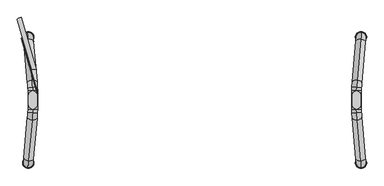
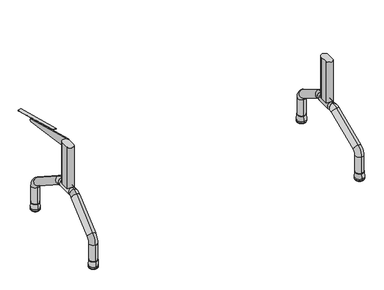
"""IFC4 building model written with IfcOpenShell, lengths in millimetres: furniture geometry, Mesa para refeitório : Mesa para refeitório 150x77cm cód 70474.2."""

from ifc_helpers import new_model, si_unit, point, frame, frame_2d, origin, place, context, project, spatial, polyline, circle_curve, ellipse_curve, trimmed, segment, composite_curve, outline, extrude, source, transform, mapped, element, save
from ifc_brep_helpers import plane_surface, cylinder_surface, revolved_surface, extruded_surface, advanced_brep


def furniture_75466551(model_context):
    return source(origin(), model_context, "Body", "SolidModel", [
        advanced_brep(
        [(-669.4401581, 37.5, 255.0), (-669.4401581, -37.5, 255.0), (-669.4401581, -37.5, 295.0), (-669.4401581, 37.5, 295.0), (-670.0583573, -51.7441422, 295.0), (-670.0583573, -51.7441422, 255.0), (-670.0583573, 51.7441422, 295.0), (-670.0583573, 51.7441422, 255.0)],
        [
            (0, 1),
            (1, 2, ellipse_curve(frame((-669.4401581, -37.5, 275.0), z_axis=(0.0, 1.0, 0.0), x_axis=(0.0, 0.0, -1.0)), 20.0, 19.923894)),
            (2, 3),
            (3, 0, ellipse_curve(frame((-669.4401581, 37.5, 275.0), z_axis=(0.0, -1.0, 0.0), x_axis=(0.0, 0.0, -1.0)), 20.0, 19.923894)),
            (2, 1, ellipse_curve(frame((-669.4401581, -37.5, 275.0), z_axis=(0.0, 1.0, 0.0), x_axis=(0.0, 0.0, -1.0)), 20.0, 19.923894)),
            (0, 3, ellipse_curve(frame((-669.4401581, 37.5, 275.0), z_axis=(0.0, -1.0, 0.0), x_axis=(0.0, 0.0, -1.0)), 20.0, 19.923894)),
            (4, 5, ellipse_curve(frame((-670.0583573, -51.7441422, 275.0), z_axis=(-0.08663729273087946, -0.9962399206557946, 0.0), x_axis=(0.0, 0.0, -1.0)), 20.0, 19.923894)),
            (5, 4, ellipse_curve(frame((-670.0583573, -51.7441422, 275.0), z_axis=(-0.08663729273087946, -0.9962399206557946, 0.0), x_axis=(0.0, 0.0, -1.0)), 20.0, 19.923894)),
            (4, 2, circle_curve(frame((-833.8513695, -37.5, 295.0), z_axis=(0.0, 0.0, 1.0), x_axis=(1.0, 0.0, 0.0)), 164.4112114)),
            (1, 5, circle_curve(frame((-833.8513695, -37.5, 255.0), z_axis=(0.0, 0.0, -1.0), x_axis=(1.0, 0.0, 0.0)), 164.4112114)),
            (6, 7, ellipse_curve(frame((-670.0583573, 51.7441422, 275.0), z_axis=(-0.08663729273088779, 0.9962399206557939, 0.0), x_axis=(0.0, 0.0, -1.0)), 20.0, 19.923894)),
            (7, 6, ellipse_curve(frame((-670.0583573, 51.7441422, 275.0), z_axis=(-0.08663729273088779, 0.9962399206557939, 0.0), x_axis=(0.0, 0.0, -1.0)), 20.0, 19.923894)),
            (3, 6, circle_curve(frame((-833.8513695, 37.5, 295.0), z_axis=(0.0, 0.0, 1.0), x_axis=(0.996239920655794, 0.08663729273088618, 0.0)), 164.4112114)),
            (7, 0, circle_curve(frame((-833.8513695, 37.5, 255.0), z_axis=(0.0, 0.0, -1.0), x_axis=(0.996239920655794, 0.08663729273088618, 0.0)), 164.4112114)),
        ],
        [
            extruded_surface(trimmed(ellipse_curve(frame((-669.4401581, 37.5, 275.0), z_axis=(0.0, -1.0, 0.0), x_axis=(0.0, 0.0, -1.0)), 20.0, 19.923894), [point((-669.4401581, 37.5, 295.0))], [point((-669.4401581, 37.5, 255.0))], True, "CARTESIAN"), (0.0, -75.0, 0.0), 75.0),
            extruded_surface(trimmed(ellipse_curve(frame((-669.4401581, 37.5, 275.0), z_axis=(0.0, -1.0, 0.0), x_axis=(0.0, 0.0, -1.0)), 20.0, 19.923894), [point((-669.4401581, 37.5, 255.0))], [point((-669.4401581, 37.5, 295.0))], True, "CARTESIAN"), (0.0, -75.0, 0.0), 75.0),
            plane_surface(frame((-670.0583573, -51.7441422, 0.0), z_axis=(-0.08663729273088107, -0.9962399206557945, 0.0), x_axis=(0.0, 0.0, 1.0))),
            revolved_surface(trimmed(ellipse_curve(frame((-669.4401581, -37.5, 275.0), z_axis=(0.0, -1.0, 0.0), x_axis=(0.0, 0.0, -1.0)), 20.0, 19.923894), [point((-669.4401581, -37.5, 295.0))], [point((-669.4401581, -37.5, 255.0))], True, "CARTESIAN"), (-833.8513695, -37.5, 0.0), (0.0, 0.0, 1.0)),
            revolved_surface(trimmed(ellipse_curve(frame((-669.4401581, -37.5, 275.0), z_axis=(0.0, -1.0, 0.0), x_axis=(0.0, 0.0, -1.0)), 20.0, 19.923894), [point((-669.4401581, -37.5, 255.0))], [point((-669.4401581, -37.5, 295.0))], True, "CARTESIAN"), (-833.8513695, -37.5, 0.0), (0.0, 0.0, 1.0)),
            plane_surface(frame((-670.0583573, 51.7441422, 0.0), z_axis=(-0.08663729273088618, 0.996239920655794, 0.0), x_axis=(0.0, 0.0, 1.0))),
            revolved_surface(trimmed(ellipse_curve(frame((-670.0583573, 51.7441422, 275.0), z_axis=(0.08663729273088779, -0.9962399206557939, 0.0), x_axis=(0.0, 0.0, -1.0)), 20.0, 19.923894), [point((-670.0583573, 51.7441422, 295.0))], [point((-670.0583573, 51.7441422, 255.0))], True, "CARTESIAN"), (-833.8513695, 37.5, 0.0), (0.0, 0.0, 1.0)),
            revolved_surface(trimmed(ellipse_curve(frame((-670.0583573, 51.7441422, 275.0), z_axis=(0.08663729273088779, -0.9962399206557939, 0.0), x_axis=(0.0, 0.0, -1.0)), 20.0, 19.923894), [point((-670.0583573, 51.7441422, 255.0))], [point((-670.0583573, 51.7441422, 295.0))], True, "CARTESIAN"), (-833.8513695, 37.5, 0.0), (0.0, 0.0, 1.0)),
        ],
        [
            (0, [[1, 2, 3, 4]]),
            (1, [[-3, 5, -1, 6]]),
            (2, [[7, 8]]),
            (3, [[-7, 9, -2, 10]]),
            (4, [[-8, -10, -5, -9]]),
            (5, [[11, 12]]),
            (6, [[-4, 13, -12, 14]]),
            (7, [[-6, -14, -11, -13]]),
        ],
    ),
        advanced_brep(
        [(-689.9590188, 279.1314153, 43.1183008), (-686.4727891, 239.2836274, 43.1183008), (-689.9590188, 279.1314153, 130.5759348), (-686.4727891, 239.2836274, 130.5759348), (-687.4872272, 250.8787073, 181.5558347), (-672.822711, 83.2625212, 285.9798998), (-670.9843424, 62.2498719, 251.9932999), (-685.6488585, 229.866058, 147.5692348), (-670.0651581, 51.7435473, 295.0), (-670.0651581, 51.7435473, 255.0)],
        [
            (0, 1, circle_curve(frame((-688.215904, 259.2075213, 43.1183008), z_axis=(0.0, 0.0, -1.0), x_axis=(0.08715574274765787, -0.9961946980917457, 0.0)), 20.0)),
            (1, 0, circle_curve(frame((-688.215904, 259.2075213, 43.1183008), z_axis=(0.0, 0.0, -1.0), x_axis=(0.08715574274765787, -0.9961946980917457, 0.0)), 20.0)),
            (0, 2),
            (2, 3, circle_curve(frame((-688.215904, 259.2075213, 130.5759348), z_axis=(0.0, 0.0, -1.0), x_axis=(0.08715574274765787, -0.9961946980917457, 0.0)), 20.0)),
            (3, 1),
            (3, 2, circle_curve(frame((-688.215904, 259.2075213, 130.5759348), z_axis=(0.0, 0.0, -1.0), x_axis=(0.08715574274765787, -0.9961946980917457, 0.0)), 20.0)),
            (4, 5),
            (5, 6, circle_curve(frame((-671.9035267, 72.7561965, 268.9865999), z_axis=(-0.07405318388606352, 0.8464317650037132, -0.5273228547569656), x_axis=(0.04595921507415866, -0.5253162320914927, -0.8496649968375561)), 20.0)),
            (6, 7),
            (7, 4, circle_curve(frame((-686.5680429, 240.3723827, 164.5625347), z_axis=(0.07405318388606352, -0.8464317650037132, 0.5273228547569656), x_axis=(0.04595921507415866, -0.5253162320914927, -0.8496649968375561)), 20.0)),
            (6, 5, circle_curve(frame((-671.9035267, 72.7561965, 268.9865999), z_axis=(-0.07405318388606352, 0.8464317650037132, -0.5273228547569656), x_axis=(0.04595921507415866, -0.5253162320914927, -0.8496649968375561)), 20.0)),
            (4, 7, circle_curve(frame((-686.5680429, 240.3723827, 164.5625347), z_axis=(0.07405318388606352, -0.8464317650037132, 0.5273228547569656), x_axis=(0.04595921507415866, -0.5253162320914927, -0.8496649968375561)), 20.0)),
            (7, 3, circle_curve(frame((-684.7296742, 219.3597334, 130.5759348), z_axis=(-0.9961946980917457, -0.08715574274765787, 0.0), x_axis=(-0.08715574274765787, 0.9961946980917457, 0.0)), 20.0)),
            (2, 4, circle_curve(frame((-684.7296742, 219.3597334, 130.5759348), z_axis=(0.9961946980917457, 0.08715574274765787, 0.0), x_axis=(-0.08715574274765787, 0.9961946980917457, 0.0)), 60.0)),
            (8, 9, circle_curve(frame((-670.0651581, 51.7435473, 275.0), z_axis=(0.08715574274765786, -0.9961946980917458, 0.0), x_axis=(0.0, 0.0, -1.0)), 20.0)),
            (9, 8, circle_curve(frame((-670.0651581, 51.7435473, 275.0), z_axis=(0.08715574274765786, -0.9961946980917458, 0.0), x_axis=(0.0, 0.0, -1.0)), 20.0)),
            (9, 6, circle_curve(frame((-670.0651581, 51.7435473, 235.0), z_axis=(-0.9961946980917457, -0.08715574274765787, 0.0), x_axis=(-0.045959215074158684, 0.5253162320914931, 0.8496649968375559)), 20.0)),
            (5, 8, circle_curve(frame((-670.0651581, 51.7435473, 235.0), z_axis=(0.9961946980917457, 0.08715574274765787, 0.0), x_axis=(-0.045959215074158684, 0.5253162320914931, 0.8496649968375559)), 60.0)),
        ],
        [
            plane_surface(frame((-0.8415623, 319.3449838, 43.1183008), z_axis=(0.0, 0.0, -1.0000000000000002), x_axis=(-0.9961946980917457, -0.08715574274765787, 0.0))),
            cylinder_surface(frame((-688.215904, 259.2075213, 43.1183008), z_axis=(0.0, 0.0, -1.0000000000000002), x_axis=(0.08715574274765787, -0.9961946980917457, 0.0)), 20.0),
            cylinder_surface(frame((-686.5680429, 240.3723827, 164.5625347), z_axis=(-0.07405318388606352, 0.8464317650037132, -0.5273228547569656), x_axis=(0.04595921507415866, -0.5253162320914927, -0.8496649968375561)), 20.0),
            revolved_surface(trimmed(ellipse_curve(frame((-688.215904, 259.2075213, 130.5759348), z_axis=(0.0, 0.0, 1.0000000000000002), x_axis=(0.08715574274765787, -0.9961946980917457, 0.0)), 20.0, 20.0), [point((-686.4727891, 239.2836274, 130.5759348))], [point((-689.9590188, 279.1314153, 130.5759348))], True, "CARTESIAN"), (2.6446674, 279.4971959, 130.5759348), (-0.9961946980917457, -0.08715574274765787, 0.0)),
            revolved_surface(trimmed(ellipse_curve(frame((-688.215904, 259.2075213, 130.5759348), z_axis=(0.0, 0.0, 1.0000000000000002), x_axis=(0.08715574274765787, -0.9961946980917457, 0.0)), 20.0, 20.0), [point((-689.9590188, 279.1314153, 130.5759348))], [point((-686.4727891, 239.2836274, 130.5759348))], True, "CARTESIAN"), (2.6446674, 279.4971959, 130.5759348), (-0.9961946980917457, -0.08715574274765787, 0.0)),
            plane_surface(frame((17.3091835, 111.8810098, 275.0), z_axis=(0.08715574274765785, -0.9961946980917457, 0.0), x_axis=(-0.9961946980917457, -0.08715574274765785, 0.0))),
            revolved_surface(trimmed(ellipse_curve(frame((-671.9035267, 72.7561965, 268.9865999), z_axis=(0.07405318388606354, -0.8464317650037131, 0.527322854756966), x_axis=(0.045959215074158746, -0.5253162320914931, -0.8496649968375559)), 20.0, 20.0), [point((-670.9843424, 62.2498719, 251.9932999))], [point((-672.822711, 83.2625212, 285.9798998))], True, "CARTESIAN"), (17.3091835, 111.8810098, 235.0), (-0.9961946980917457, -0.08715574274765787, 0.0)),
            revolved_surface(trimmed(ellipse_curve(frame((-671.9035267, 72.7561965, 268.9865999), z_axis=(0.07405318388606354, -0.8464317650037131, 0.527322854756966), x_axis=(0.045959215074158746, -0.5253162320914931, -0.8496649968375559)), 20.0, 20.0), [point((-672.822711, 83.2625212, 285.9798998))], [point((-670.9843424, 62.2498719, 251.9932999))], True, "CARTESIAN"), (17.3091835, 111.8810098, 235.0), (-0.9961946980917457, -0.08715574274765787, 0.0)),
        ],
        [
            (0, [[1, 2]]),
            (1, [[3, 4, 5, -1]]),
            (1, [[-5, 6, -3, -2]]),
            (2, [[7, 8, 9, 10]]),
            (2, [[-9, 11, -7, 12]]),
            (3, [[-10, 13, -4, 14]]),
            (4, [[-12, -14, -6, -13]]),
            (5, [[15, 16]]),
            (6, [[-16, 17, -8, 18]]),
            (7, [[-15, -18, -11, -17]]),
        ],
    ),
        advanced_brep(
        [(-686.4727891, -239.2836274, 43.1183008), (-689.9590188, -279.1314153, 43.1183008), (-689.9590188, -279.1314153, 130.5759348), (-686.4727891, -239.2836274, 130.5759348), (-687.4872272, -250.8787073, 181.5558347), (-672.822711, -83.2625212, 285.9798998), (-670.9843424, -62.2498719, 251.9932999), (-685.6488585, -229.866058, 147.5692348), (-670.0651581, -51.7435473, 255.0), (-670.0651581, -51.7435473, 295.0)],
        [
            (0, 1, circle_curve(frame((-688.215904, -259.2075213, 43.1183008), z_axis=(0.0, 0.0, -1.0), x_axis=(-0.08715574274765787, -0.9961946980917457, 0.0)), 20.0)),
            (1, 0, circle_curve(frame((-688.215904, -259.2075213, 43.1183008), z_axis=(0.0, 0.0, -1.0), x_axis=(-0.08715574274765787, -0.9961946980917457, 0.0)), 20.0)),
            (1, 2),
            (2, 3, circle_curve(frame((-688.215904, -259.2075213, 130.5759348), z_axis=(0.0, 0.0, -1.0), x_axis=(-0.08715574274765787, -0.9961946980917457, 0.0)), 20.0)),
            (3, 0),
            (3, 2, circle_curve(frame((-688.215904, -259.2075213, 130.5759348), z_axis=(0.0, 0.0, -1.0), x_axis=(-0.08715574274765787, -0.9961946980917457, 0.0)), 20.0)),
            (4, 5),
            (5, 6, circle_curve(frame((-671.9035267, -72.7561965, 268.9865999), z_axis=(-0.07405318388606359, -0.8464317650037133, -0.5273228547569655), x_axis=(-0.04595921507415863, -0.5253162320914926, 0.8496649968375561)), 20.0)),
            (6, 7),
            (7, 4, circle_curve(frame((-686.5680429, -240.3723827, 164.5625347), z_axis=(0.07405318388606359, 0.8464317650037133, 0.5273228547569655), x_axis=(-0.04595921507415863, -0.5253162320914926, 0.8496649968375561)), 20.0)),
            (6, 5, circle_curve(frame((-671.9035267, -72.7561965, 268.9865999), z_axis=(-0.07405318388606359, -0.8464317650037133, -0.5273228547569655), x_axis=(-0.04595921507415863, -0.5253162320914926, 0.8496649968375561)), 20.0)),
            (4, 7, circle_curve(frame((-686.5680429, -240.3723827, 164.5625347), z_axis=(0.07405318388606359, 0.8464317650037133, 0.5273228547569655), x_axis=(-0.04595921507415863, -0.5253162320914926, 0.8496649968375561)), 20.0)),
            (7, 3, circle_curve(frame((-684.7296742, -219.3597334, 130.5759348), z_axis=(0.9961946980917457, -0.08715574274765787, 0.0), x_axis=(-0.08715574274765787, -0.9961946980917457, 0.0)), 20.0)),
            (2, 4, circle_curve(frame((-684.7296742, -219.3597334, 130.5759348), z_axis=(-0.9961946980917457, 0.08715574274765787, 0.0), x_axis=(-0.08715574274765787, -0.9961946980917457, 0.0)), 60.0)),
            (8, 9, circle_curve(frame((-670.0651581, -51.7435473, 275.0), z_axis=(0.08715574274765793, 0.9961946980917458, 0.0), x_axis=(0.0, 0.0, 1.0)), 20.0)),
            (9, 8, circle_curve(frame((-670.0651581, -51.7435473, 275.0), z_axis=(0.08715574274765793, 0.9961946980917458, 0.0), x_axis=(0.0, 0.0, 1.0)), 20.0)),
            (8, 6, circle_curve(frame((-670.0651581, -51.7435473, 235.0), z_axis=(0.9961946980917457, -0.08715574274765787, 0.0), x_axis=(-0.045959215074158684, -0.5253162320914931, 0.8496649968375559)), 20.0)),
            (5, 9, circle_curve(frame((-670.0651581, -51.7435473, 235.0), z_axis=(-0.9961946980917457, 0.08715574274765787, 0.0), x_axis=(-0.045959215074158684, -0.5253162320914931, 0.8496649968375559)), 60.0)),
        ],
        [
            plane_surface(frame((-0.8415623, -319.3449838, 43.1183008), z_axis=(0.0, 0.0, -1.0000000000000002), x_axis=(-0.9961946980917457, 0.08715574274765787, 0.0))),
            cylinder_surface(frame((-688.215904, -259.2075213, 43.1183008), z_axis=(0.0, 0.0, -1.0000000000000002), x_axis=(-0.08715574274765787, -0.9961946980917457, 0.0)), 20.0),
            cylinder_surface(frame((-686.5680429, -240.3723827, 164.5625347), z_axis=(-0.07405318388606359, -0.8464317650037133, -0.5273228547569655), x_axis=(-0.04595921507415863, -0.5253162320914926, 0.8496649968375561)), 20.0),
            revolved_surface(trimmed(ellipse_curve(frame((-688.215904, -259.2075213, 130.5759348), z_axis=(0.0, 0.0, 1.0000000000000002), x_axis=(-0.08715574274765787, -0.9961946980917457, 0.0)), 20.0, 20.0), [point((-686.4727891, -239.2836274, 130.5759348))], [point((-689.9590188, -279.1314153, 130.5759348))], True, "CARTESIAN"), (2.6446674, -279.4971959, 130.5759348), (0.9961946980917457, -0.08715574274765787, 0.0)),
            revolved_surface(trimmed(ellipse_curve(frame((-688.215904, -259.2075213, 130.5759348), z_axis=(0.0, 0.0, 1.0000000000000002), x_axis=(-0.08715574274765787, -0.9961946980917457, 0.0)), 20.0, 20.0), [point((-689.9590188, -279.1314153, 130.5759348))], [point((-686.4727891, -239.2836274, 130.5759348))], True, "CARTESIAN"), (2.6446674, -279.4971959, 130.5759348), (0.9961946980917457, -0.08715574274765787, 0.0)),
            plane_surface(frame((17.3091835, -111.8810098, 275.0), z_axis=(0.0871557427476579, 0.9961946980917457, 0.0), x_axis=(-0.9961946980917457, 0.0871557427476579, 0.0))),
            revolved_surface(trimmed(ellipse_curve(frame((-671.9035267, -72.7561965, 268.9865999), z_axis=(0.0740531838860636, 0.8464317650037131, 0.527322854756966), x_axis=(-0.04595921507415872, -0.5253162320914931, 0.8496649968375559)), 20.0, 20.0), [point((-670.9843424, -62.2498719, 251.9932999))], [point((-672.822711, -83.2625212, 285.9798998))], True, "CARTESIAN"), (17.3091835, -111.8810098, 235.0), (0.9961946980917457, -0.08715574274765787, 0.0)),
            revolved_surface(trimmed(ellipse_curve(frame((-671.9035267, -72.7561965, 268.9865999), z_axis=(0.0740531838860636, 0.8464317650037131, 0.527322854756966), x_axis=(-0.04595921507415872, -0.5253162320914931, 0.8496649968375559)), 20.0, 20.0), [point((-672.822711, -83.2625212, 285.9798998))], [point((-670.9843424, -62.2498719, 251.9932999))], True, "CARTESIAN"), (17.3091835, -111.8810098, 235.0), (0.9961946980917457, -0.08715574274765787, 0.0)),
        ],
        [
            (0, [[1, 2]]),
            (1, [[3, 4, 5, -2]]),
            (1, [[-5, 6, -3, -1]]),
            (2, [[7, 8, 9, 10]]),
            (2, [[-9, 11, -7, 12]]),
            (3, [[-10, 13, -4, 14]]),
            (4, [[-12, -14, -6, -13]]),
            (5, [[15, 16]]),
            (6, [[-15, 17, -8, 18]]),
            (7, [[-16, -18, -11, -17]]),
        ],
    ),
        extrude(outline(composite_curve([segment(polyline([(-687.5814475, -19.3376613), (-687.5814475, 19.4032698)]), True, "CONTINUOUS"), segment(trimmed(circle_curve(frame_2d((-669.5814475, 19.4032698)), 18.0), [point((-687.5814475, 19.4032698))], [point((-651.5814475, 19.4032698))], False, "CARTESIAN"), True, "CONTINUOUS"), segment(polyline([(-651.5814475, 19.4032698), (-651.5814475, -19.3376613)]), True, "CONTINUOUS"), segment(trimmed(circle_curve(frame_2d((-669.5814475, -19.3376613)), 18.0), [point((-651.5814475, -19.3376613))], [point((-687.5814475, -19.3376613))], False, "CARTESIAN"), True, "CONTINUOUS")], self_intersect=False)), frame((0.0, 0.0, 275.0), z_axis=(0.0, 0.0, 1.0), x_axis=(1.0, 0.0, 0.0)), (0.0, 0.0, 1.0), 237.0),
        advanced_brep(
        [(669.4401581, 37.5, 255.0), (669.4401581, 37.5, 295.0), (669.4401581, -37.5, 295.0), (669.4401581, -37.5, 255.0), (670.0583573, -51.7441422, 295.0), (670.0583573, -51.7441422, 255.0), (670.0583573, 51.7441422, 295.0), (670.0583573, 51.7441422, 255.0)],
        [
            (0, 1, ellipse_curve(frame((669.4401581, 37.5, 275.0), z_axis=(0.0, -1.0, 0.0), x_axis=(0.0, 0.0, -1.0)), 20.0, 19.923894)),
            (1, 2),
            (2, 3, ellipse_curve(frame((669.4401581, -37.5, 275.0), z_axis=(0.0, 1.0, 0.0), x_axis=(0.0, 0.0, -1.0)), 20.0, 19.923894)),
            (3, 0),
            (1, 0, ellipse_curve(frame((669.4401581, 37.5, 275.0), z_axis=(0.0, -1.0, 0.0), x_axis=(0.0, 0.0, -1.0)), 20.0, 19.923894)),
            (3, 2, ellipse_curve(frame((669.4401581, -37.5, 275.0), z_axis=(0.0, 1.0, 0.0), x_axis=(0.0, 0.0, -1.0)), 20.0, 19.923894)),
            (4, 5, ellipse_curve(frame((670.0583573, -51.7441422, 275.0), z_axis=(0.08663729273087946, -0.9962399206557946, 0.0), x_axis=(0.0, 0.0, -1.0)), 20.0, 19.923894)),
            (5, 4, ellipse_curve(frame((670.0583573, -51.7441422, 275.0), z_axis=(0.08663729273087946, -0.9962399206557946, 0.0), x_axis=(0.0, 0.0, -1.0)), 20.0, 19.923894)),
            (5, 3, circle_curve(frame((833.8513695, -37.5, 255.0), z_axis=(0.0, 0.0, -1.0), x_axis=(-1.0, 0.0, 0.0)), 164.4112114)),
            (2, 4, circle_curve(frame((833.8513695, -37.5, 295.0), z_axis=(0.0, 0.0, 1.0), x_axis=(-1.0, 0.0, 0.0)), 164.4112114)),
            (6, 7, ellipse_curve(frame((670.0583573, 51.7441422, 275.0), z_axis=(0.08663729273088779, 0.9962399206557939, 0.0), x_axis=(0.0, 0.0, -1.0)), 20.0, 19.923894)),
            (7, 6, ellipse_curve(frame((670.0583573, 51.7441422, 275.0), z_axis=(0.08663729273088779, 0.9962399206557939, 0.0), x_axis=(0.0, 0.0, -1.0)), 20.0, 19.923894)),
            (0, 7, circle_curve(frame((833.8513695, 37.5, 255.0), z_axis=(0.0, 0.0, -1.0), x_axis=(-0.996239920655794, 0.08663729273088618, 0.0)), 164.4112114)),
            (6, 1, circle_curve(frame((833.8513695, 37.5, 295.0), z_axis=(0.0, 0.0, 1.0), x_axis=(-0.996239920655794, 0.08663729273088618, 0.0)), 164.4112114)),
        ],
        [
            extruded_surface(trimmed(ellipse_curve(frame((669.4401581, -37.5, 275.0), z_axis=(0.0, 1.0, 0.0), x_axis=(0.0, 0.0, -1.0)), 20.0, 19.923894), [point((669.4401581, -37.5, 295.0))], [point((669.4401581, -37.5, 255.0))], True, "CARTESIAN"), (0.0, 75.0, 0.0), 75.0),
            extruded_surface(trimmed(ellipse_curve(frame((669.4401581, -37.5, 275.0), z_axis=(0.0, 1.0, 0.0), x_axis=(0.0, 0.0, -1.0)), 20.0, 19.923894), [point((669.4401581, -37.5, 255.0))], [point((669.4401581, -37.5, 295.0))], True, "CARTESIAN"), (0.0, 75.0, 0.0), 75.0),
            plane_surface(frame((670.0583573, -51.7441422, 0.0), z_axis=(0.08663729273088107, -0.9962399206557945, 0.0), x_axis=(0.0, 0.0, 1.0))),
            revolved_surface(trimmed(ellipse_curve(frame((669.4401581, -37.5, 275.0), z_axis=(0.0, 1.0, 0.0), x_axis=(0.0, 0.0, -1.0)), 20.0, 19.923894), [point((669.4401581, -37.5, 295.0))], [point((669.4401581, -37.5, 255.0))], True, "CARTESIAN"), (833.8513695, -37.5, 0.0), (0.0, 0.0, 1.0)),
            revolved_surface(trimmed(ellipse_curve(frame((669.4401581, -37.5, 275.0), z_axis=(0.0, 1.0, 0.0), x_axis=(0.0, 0.0, -1.0)), 20.0, 19.923894), [point((669.4401581, -37.5, 255.0))], [point((669.4401581, -37.5, 295.0))], True, "CARTESIAN"), (833.8513695, -37.5, 0.0), (0.0, 0.0, 1.0)),
            plane_surface(frame((670.0583573, 51.7441422, 0.0), z_axis=(0.08663729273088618, 0.996239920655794, 0.0), x_axis=(0.0, 0.0, 1.0))),
            revolved_surface(trimmed(ellipse_curve(frame((670.0583573, 51.7441422, 275.0), z_axis=(0.08663729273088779, 0.9962399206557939, 0.0), x_axis=(0.0, 0.0, -1.0)), 20.0, 19.923894), [point((670.0583573, 51.7441422, 295.0))], [point((670.0583573, 51.7441422, 255.0))], True, "CARTESIAN"), (833.8513695, 37.5, 0.0), (0.0, 0.0, 1.0)),
            revolved_surface(trimmed(ellipse_curve(frame((670.0583573, 51.7441422, 275.0), z_axis=(0.08663729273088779, 0.9962399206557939, 0.0), x_axis=(0.0, 0.0, -1.0)), 20.0, 19.923894), [point((670.0583573, 51.7441422, 255.0))], [point((670.0583573, 51.7441422, 295.0))], True, "CARTESIAN"), (833.8513695, 37.5, 0.0), (0.0, 0.0, 1.0)),
        ],
        [
            (0, [[1, 2, 3, 4]]),
            (1, [[5, -4, 6, -2]]),
            (2, [[7, 8]]),
            (3, [[9, -3, 10, -8]]),
            (4, [[-10, -6, -9, -7]]),
            (5, [[11, 12]]),
            (6, [[13, -11, 14, -1]]),
            (7, [[-14, -12, -13, -5]]),
        ],
    ),
        advanced_brep(
        [(689.9590188, 279.1314153, 43.1183008), (686.4727891, 239.2836274, 43.1183008), (686.4727891, 239.2836274, 130.5759348), (689.9590188, 279.1314153, 130.5759348), (687.4872272, 250.8787073, 181.5558347), (685.6488585, 229.866058, 147.5692348), (670.9843424, 62.2498719, 251.9932999), (672.822711, 83.2625212, 285.9798998), (670.0651581, 51.7435473, 295.0), (670.0651581, 51.7435473, 255.0)],
        [
            (0, 1, circle_curve(frame((688.215904, 259.2075213, 43.1183008), z_axis=(0.0, 0.0, -1.0), x_axis=(-0.08715574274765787, -0.9961946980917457, 0.0)), 20.0)),
            (1, 0, circle_curve(frame((688.215904, 259.2075213, 43.1183008), z_axis=(0.0, 0.0, -1.0), x_axis=(-0.08715574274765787, -0.9961946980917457, 0.0)), 20.0)),
            (1, 2),
            (2, 3, circle_curve(frame((688.215904, 259.2075213, 130.5759348), z_axis=(0.0, 0.0, -1.0), x_axis=(-0.08715574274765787, -0.9961946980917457, 0.0)), 20.0)),
            (3, 0),
            (3, 2, circle_curve(frame((688.215904, 259.2075213, 130.5759348), z_axis=(0.0, 0.0, -1.0), x_axis=(-0.08715574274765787, -0.9961946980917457, 0.0)), 20.0)),
            (4, 5, circle_curve(frame((686.5680429, 240.3723827, 164.5625347), z_axis=(-0.07405318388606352, -0.8464317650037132, 0.5273228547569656), x_axis=(-0.04595921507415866, -0.5253162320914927, -0.8496649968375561)), 20.0)),
            (5, 6),
            (6, 7, circle_curve(frame((671.9035267, 72.7561965, 268.9865999), z_axis=(0.07405318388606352, 0.8464317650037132, -0.5273228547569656), x_axis=(-0.04595921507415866, -0.5253162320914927, -0.8496649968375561)), 20.0)),
            (7, 4),
            (5, 4, circle_curve(frame((686.5680429, 240.3723827, 164.5625347), z_axis=(-0.07405318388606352, -0.8464317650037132, 0.5273228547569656), x_axis=(-0.04595921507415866, -0.5253162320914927, -0.8496649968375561)), 20.0)),
            (7, 6, circle_curve(frame((671.9035267, 72.7561965, 268.9865999), z_axis=(0.07405318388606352, 0.8464317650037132, -0.5273228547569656), x_axis=(-0.04595921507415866, -0.5253162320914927, -0.8496649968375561)), 20.0)),
            (4, 3, circle_curve(frame((684.7296742, 219.3597334, 130.5759348), z_axis=(-0.9961946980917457, 0.08715574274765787, 0.0), x_axis=(0.08715574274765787, 0.9961946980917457, 0.0)), 60.0)),
            (2, 5, circle_curve(frame((684.7296742, 219.3597334, 130.5759348), z_axis=(0.9961946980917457, -0.08715574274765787, 0.0), x_axis=(0.08715574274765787, 0.9961946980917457, 0.0)), 20.0)),
            (8, 9, circle_curve(frame((670.0651581, 51.7435473, 275.0), z_axis=(-0.08715574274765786, -0.9961946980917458, 0.0), x_axis=(0.0, 0.0, -1.0)), 20.0)),
            (9, 8, circle_curve(frame((670.0651581, 51.7435473, 275.0), z_axis=(-0.08715574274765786, -0.9961946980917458, 0.0), x_axis=(0.0, 0.0, -1.0)), 20.0)),
            (8, 7, circle_curve(frame((670.0651581, 51.7435473, 235.0), z_axis=(-0.9961946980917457, 0.08715574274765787, 0.0), x_axis=(0.045959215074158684, 0.5253162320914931, 0.8496649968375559)), 60.0)),
            (6, 9, circle_curve(frame((670.0651581, 51.7435473, 235.0), z_axis=(0.9961946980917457, -0.08715574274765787, 0.0), x_axis=(0.045959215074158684, 0.5253162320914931, 0.8496649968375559)), 20.0)),
        ],
        [
            plane_surface(frame((0.8415623, 319.3449838, 43.1183008), z_axis=(0.0, 0.0, -1.0000000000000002), x_axis=(0.9961946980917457, -0.08715574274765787, 0.0))),
            cylinder_surface(frame((688.215904, 259.2075213, 43.1183008), z_axis=(0.0, 0.0, -1.0000000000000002), x_axis=(-0.08715574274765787, -0.9961946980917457, 0.0)), 20.0),
            cylinder_surface(frame((686.5680429, 240.3723827, 164.5625347), z_axis=(0.07405318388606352, 0.8464317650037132, -0.5273228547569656), x_axis=(-0.04595921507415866, -0.5253162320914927, -0.8496649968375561)), 20.0),
            revolved_surface(trimmed(ellipse_curve(frame((688.215904, 259.2075213, 130.5759348), z_axis=(0.0, 0.0, -1.0000000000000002), x_axis=(-0.08715574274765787, -0.9961946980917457, 0.0)), 20.0, 20.0), [point((686.4727891, 239.2836274, 130.5759348))], [point((689.9590188, 279.1314153, 130.5759348))], True, "CARTESIAN"), (-2.6446674, 279.4971959, 130.5759348), (0.9961946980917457, -0.08715574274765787, 0.0)),
            revolved_surface(trimmed(ellipse_curve(frame((688.215904, 259.2075213, 130.5759348), z_axis=(0.0, 0.0, -1.0000000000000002), x_axis=(-0.08715574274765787, -0.9961946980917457, 0.0)), 20.0, 20.0), [point((689.9590188, 279.1314153, 130.5759348))], [point((686.4727891, 239.2836274, 130.5759348))], True, "CARTESIAN"), (-2.6446674, 279.4971959, 130.5759348), (0.9961946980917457, -0.08715574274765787, 0.0)),
            plane_surface(frame((-17.3091835, 111.8810098, 275.0), z_axis=(-0.08715574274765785, -0.9961946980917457, 0.0), x_axis=(0.9961946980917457, -0.08715574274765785, 0.0))),
            revolved_surface(trimmed(ellipse_curve(frame((671.9035267, 72.7561965, 268.9865999), z_axis=(0.07405318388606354, 0.8464317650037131, -0.527322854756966), x_axis=(-0.045959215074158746, -0.5253162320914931, -0.8496649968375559)), 20.0, 20.0), [point((670.9843424, 62.2498719, 251.9932999))], [point((672.822711, 83.2625212, 285.9798998))], True, "CARTESIAN"), (-17.3091835, 111.8810098, 235.0), (0.9961946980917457, -0.08715574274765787, 0.0)),
            revolved_surface(trimmed(ellipse_curve(frame((671.9035267, 72.7561965, 268.9865999), z_axis=(0.07405318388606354, 0.8464317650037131, -0.527322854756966), x_axis=(-0.045959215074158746, -0.5253162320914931, -0.8496649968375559)), 20.0, 20.0), [point((672.822711, 83.2625212, 285.9798998))], [point((670.9843424, 62.2498719, 251.9932999))], True, "CARTESIAN"), (-17.3091835, 111.8810098, 235.0), (0.9961946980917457, -0.08715574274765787, 0.0)),
        ],
        [
            (0, [[1, 2]]),
            (1, [[-2, 3, 4, 5]]),
            (1, [[-1, -5, 6, -3]]),
            (2, [[7, 8, 9, 10]]),
            (2, [[11, -10, 12, -8]]),
            (3, [[13, -4, 14, -7]]),
            (4, [[-14, -6, -13, -11]]),
            (5, [[15, 16]]),
            (6, [[17, -9, 18, -15]]),
            (7, [[-18, -12, -17, -16]]),
        ],
    ),
        advanced_brep(
        [(686.4727891, -239.2836274, 43.1183008), (689.9590188, -279.1314153, 43.1183008), (686.4727891, -239.2836274, 130.5759348), (689.9590188, -279.1314153, 130.5759348), (687.4872272, -250.8787073, 181.5558347), (685.6488585, -229.866058, 147.5692348), (670.9843424, -62.2498719, 251.9932999), (672.822711, -83.2625212, 285.9798998), (670.0651581, -51.7435473, 255.0), (670.0651581, -51.7435473, 295.0)],
        [
            (0, 1, circle_curve(frame((688.215904, -259.2075213, 43.1183008), z_axis=(0.0, 0.0, -1.0), x_axis=(0.08715574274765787, -0.9961946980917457, 0.0)), 20.0)),
            (1, 0, circle_curve(frame((688.215904, -259.2075213, 43.1183008), z_axis=(0.0, 0.0, -1.0), x_axis=(0.08715574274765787, -0.9961946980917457, 0.0)), 20.0)),
            (0, 2),
            (2, 3, circle_curve(frame((688.215904, -259.2075213, 130.5759348), z_axis=(0.0, 0.0, -1.0), x_axis=(0.08715574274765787, -0.9961946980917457, 0.0)), 20.0)),
            (3, 1),
            (3, 2, circle_curve(frame((688.215904, -259.2075213, 130.5759348), z_axis=(0.0, 0.0, -1.0), x_axis=(0.08715574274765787, -0.9961946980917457, 0.0)), 20.0)),
            (4, 5, circle_curve(frame((686.5680429, -240.3723827, 164.5625347), z_axis=(-0.07405318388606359, 0.8464317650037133, 0.5273228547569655), x_axis=(0.04595921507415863, -0.5253162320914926, 0.8496649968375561)), 20.0)),
            (5, 6),
            (6, 7, circle_curve(frame((671.9035267, -72.7561965, 268.9865999), z_axis=(0.07405318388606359, -0.8464317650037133, -0.5273228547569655), x_axis=(0.04595921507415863, -0.5253162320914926, 0.8496649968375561)), 20.0)),
            (7, 4),
            (5, 4, circle_curve(frame((686.5680429, -240.3723827, 164.5625347), z_axis=(-0.07405318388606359, 0.8464317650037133, 0.5273228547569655), x_axis=(0.04595921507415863, -0.5253162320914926, 0.8496649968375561)), 20.0)),
            (7, 6, circle_curve(frame((671.9035267, -72.7561965, 268.9865999), z_axis=(0.07405318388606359, -0.8464317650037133, -0.5273228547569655), x_axis=(0.04595921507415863, -0.5253162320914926, 0.8496649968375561)), 20.0)),
            (4, 3, circle_curve(frame((684.7296742, -219.3597334, 130.5759348), z_axis=(0.9961946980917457, 0.08715574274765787, 0.0), x_axis=(0.08715574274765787, -0.9961946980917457, 0.0)), 60.0)),
            (2, 5, circle_curve(frame((684.7296742, -219.3597334, 130.5759348), z_axis=(-0.9961946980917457, -0.08715574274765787, 0.0), x_axis=(0.08715574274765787, -0.9961946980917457, 0.0)), 20.0)),
            (8, 9, circle_curve(frame((670.0651581, -51.7435473, 275.0), z_axis=(-0.08715574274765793, 0.9961946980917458, 0.0), x_axis=(0.0, 0.0, 1.0)), 20.0)),
            (9, 8, circle_curve(frame((670.0651581, -51.7435473, 275.0), z_axis=(-0.08715574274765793, 0.9961946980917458, 0.0), x_axis=(0.0, 0.0, 1.0)), 20.0)),
            (9, 7, circle_curve(frame((670.0651581, -51.7435473, 235.0), z_axis=(0.9961946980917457, 0.08715574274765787, 0.0), x_axis=(0.045959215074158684, -0.5253162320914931, 0.8496649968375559)), 60.0)),
            (6, 8, circle_curve(frame((670.0651581, -51.7435473, 235.0), z_axis=(-0.9961946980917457, -0.08715574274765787, 0.0), x_axis=(0.045959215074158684, -0.5253162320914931, 0.8496649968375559)), 20.0)),
        ],
        [
            plane_surface(frame((0.8415623, -319.3449838, 43.1183008), z_axis=(0.0, 0.0, -1.0000000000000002), x_axis=(0.9961946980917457, 0.08715574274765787, 0.0))),
            cylinder_surface(frame((688.215904, -259.2075213, 43.1183008), z_axis=(0.0, 0.0, -1.0000000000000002), x_axis=(0.08715574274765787, -0.9961946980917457, 0.0)), 20.0),
            cylinder_surface(frame((686.5680429, -240.3723827, 164.5625347), z_axis=(0.07405318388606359, -0.8464317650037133, -0.5273228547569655), x_axis=(0.04595921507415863, -0.5253162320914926, 0.8496649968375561)), 20.0),
            revolved_surface(trimmed(ellipse_curve(frame((688.215904, -259.2075213, 130.5759348), z_axis=(0.0, 0.0, -1.0000000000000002), x_axis=(0.08715574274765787, -0.9961946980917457, 0.0)), 20.0, 20.0), [point((686.4727891, -239.2836274, 130.5759348))], [point((689.9590188, -279.1314153, 130.5759348))], True, "CARTESIAN"), (-2.6446674, -279.4971959, 130.5759348), (-0.9961946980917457, -0.08715574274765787, 0.0)),
            revolved_surface(trimmed(ellipse_curve(frame((688.215904, -259.2075213, 130.5759348), z_axis=(0.0, 0.0, -1.0000000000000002), x_axis=(0.08715574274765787, -0.9961946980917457, 0.0)), 20.0, 20.0), [point((689.9590188, -279.1314153, 130.5759348))], [point((686.4727891, -239.2836274, 130.5759348))], True, "CARTESIAN"), (-2.6446674, -279.4971959, 130.5759348), (-0.9961946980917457, -0.08715574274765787, 0.0)),
            plane_surface(frame((-17.3091835, -111.8810098, 275.0), z_axis=(-0.0871557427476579, 0.9961946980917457, 0.0), x_axis=(0.9961946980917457, 0.0871557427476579, 0.0))),
            revolved_surface(trimmed(ellipse_curve(frame((671.9035267, -72.7561965, 268.9865999), z_axis=(0.0740531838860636, -0.8464317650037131, -0.527322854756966), x_axis=(0.04595921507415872, -0.5253162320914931, 0.8496649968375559)), 20.0, 20.0), [point((670.9843424, -62.2498719, 251.9932999))], [point((672.822711, -83.2625212, 285.9798998))], True, "CARTESIAN"), (-17.3091835, -111.8810098, 235.0), (-0.9961946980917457, -0.08715574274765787, 0.0)),
            revolved_surface(trimmed(ellipse_curve(frame((671.9035267, -72.7561965, 268.9865999), z_axis=(0.0740531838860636, -0.8464317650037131, -0.527322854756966), x_axis=(0.04595921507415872, -0.5253162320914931, 0.8496649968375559)), 20.0, 20.0), [point((672.822711, -83.2625212, 285.9798998))], [point((670.9843424, -62.2498719, 251.9932999))], True, "CARTESIAN"), (-17.3091835, -111.8810098, 235.0), (-0.9961946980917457, -0.08715574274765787, 0.0)),
        ],
        [
            (0, [[1, 2]]),
            (1, [[-1, 3, 4, 5]]),
            (1, [[-2, -5, 6, -3]]),
            (2, [[7, 8, 9, 10]]),
            (2, [[11, -10, 12, -8]]),
            (3, [[13, -4, 14, -7]]),
            (4, [[-14, -6, -13, -11]]),
            (5, [[15, 16]]),
            (6, [[17, -9, 18, -16]]),
            (7, [[-18, -12, -17, -15]]),
        ],
    ),
        extrude(outline(composite_curve([segment(trimmed(circle_curve(frame_2d((669.5814475, -19.3376613)), 18.0), [point((687.5814475, -19.3376613))], [point((651.5814475, -19.3376613))], False, "CARTESIAN"), True, "CONTINUOUS"), segment(polyline([(651.5814475, -19.3376613), (651.5814475, 19.4032698)]), True, "CONTINUOUS"), segment(trimmed(circle_curve(frame_2d((669.5814475, 19.4032698)), 18.0), [point((651.5814475, 19.4032698))], [point((687.5814475, 19.4032698))], False, "CARTESIAN"), True, "CONTINUOUS"), segment(polyline([(687.5814475, 19.4032698), (687.5814475, -19.3376613)]), True, "CONTINUOUS")], self_intersect=False)), frame((0.0, 0.0, 275.0), z_axis=(0.0, 0.0, 1.0), x_axis=(1.0, 0.0, 0.0)), (0.0, 0.0, 1.0), 237.0),
        advanced_brep(
        [(-688.215904, 280.5839249, 42.9792915), (-688.215904, 281.212521, 42.3931162), (-688.215904, 238.787479, 42.3931162), (-688.215904, 239.4160751, 42.9792915), (-688.215904, 283.125, 15.0433923), (-688.215904, 236.875, 15.0433923), (-688.215904, 283.125, 7.2213749), (-688.215904, 236.875, 7.2213749), (-688.215904, 276.0093092, 0.1056841), (-688.215904, 243.9906908, 0.1056841), (-688.215904, 260.0, 0.1056841), (-688.215904, 260.0, 42.9792915)],
        [
            (0, 1, circle_curve(frame((-688.215904, 280.5839249, 42.3491605), z_axis=(-1.0, 0.0, 0.0), x_axis=(0.0, -1.0, 0.0)), 0.630131)),
            (1, 2, circle_curve(frame((-688.215904, 260.0, 42.3931162), z_axis=(0.0, 0.0, 1.0), x_axis=(0.0, -1.0, 0.0)), 21.212521)),
            (2, 3, circle_curve(frame((-688.215904, 239.4160751, 42.3491605), z_axis=(-1.0, 0.0, 0.0), x_axis=(0.0, 1.0, 0.0)), 0.630131)),
            (3, 0, circle_curve(frame((-688.215904, 260.0, 42.9792915), z_axis=(0.0, 0.0, -1.0), x_axis=(0.0, -1.0, 0.0)), 20.5839249)),
            (2, 1, circle_curve(frame((-688.215904, 260.0, 42.3931162), z_axis=(0.0, 0.0, 1.0), x_axis=(0.0, -1.0, 0.0)), 21.212521)),
            (0, 3, circle_curve(frame((-688.215904, 260.0, 42.9792915), z_axis=(0.0, 0.0, -1.0), x_axis=(0.0, -1.0, 0.0)), 20.5839249)),
            (1, 4),
            (4, 5, circle_curve(frame((-688.215904, 260.0, 15.0433923), z_axis=(0.0, 0.0, 1.0), x_axis=(0.0, -1.0, 0.0)), 23.125)),
            (5, 2),
            (5, 4, circle_curve(frame((-688.215904, 260.0, 15.0433923), z_axis=(0.0, 0.0, 1.0), x_axis=(0.0, -1.0, 0.0)), 23.125)),
            (4, 6),
            (6, 7, circle_curve(frame((-688.215904, 260.0, 7.2213749), z_axis=(0.0, 0.0, 1.0), x_axis=(0.0, -1.0, 0.0)), 23.125)),
            (7, 5),
            (7, 6, circle_curve(frame((-688.215904, 260.0, 7.2213749), z_axis=(0.0, 0.0, 1.0), x_axis=(0.0, -1.0, 0.0)), 23.125)),
            (6, 8, circle_curve(frame((-688.215904, 276.0093092, 7.2213749), z_axis=(-1.0, 0.0, 0.0), x_axis=(0.0, -1.0, 0.0)), 7.1156908)),
            (8, 9, circle_curve(frame((-688.215904, 260.0, 0.1056841), z_axis=(0.0, 0.0, 1.0), x_axis=(0.0, -1.0, 0.0)), 16.0093092)),
            (9, 7, circle_curve(frame((-688.215904, 243.9906908, 7.2213749), z_axis=(-1.0, 0.0, 0.0), x_axis=(0.0, 1.0, 0.0)), 7.1156908)),
            (9, 8, circle_curve(frame((-688.215904, 260.0, 0.1056841), z_axis=(0.0, 0.0, 1.0), x_axis=(0.0, -1.0, 0.0)), 16.0093092)),
            (8, 10),
            (10, 9),
            (11, 0),
            (3, 11),
        ],
        [
            revolved_surface(trimmed(ellipse_curve(frame((-688.215904, 239.4160751, 42.3491605), z_axis=(-1.0, 0.0, 0.0), x_axis=(0.0, 1.0, 0.0)), 0.630131, 0.630131), [point((-688.215904, 238.787479, 42.3931162))], [point((-688.215904, 239.4160751, 42.9792915))], True, "CARTESIAN"), (-688.215904, 260.0, 0.1056841), (0.0, 0.0, 1.0)),
            revolved_surface(polyline([(-688.215904, 236.875, 15.0433923), (-688.215904, 238.787479, 42.3931162)]), (-688.215904, 260.0, 0.1056841), (0.0, 0.0, 1.0)),
            cylinder_surface(frame((-688.215904, 260.0, 0.1056841), z_axis=(0.0, 0.0, 1.0), x_axis=(0.0, -1.0, 0.0)), 23.125),
            revolved_surface(trimmed(ellipse_curve(frame((-688.215904, 243.9906908, 7.2213749), z_axis=(-1.0, 0.0, 0.0), x_axis=(0.0, 1.0, 0.0)), 7.1156908, 7.1156908), [point((-688.215904, 243.9906908, 0.1056841))], [point((-688.215904, 236.875, 7.2213749))], True, "CARTESIAN"), (-688.215904, 260.0, 0.1056841), (0.0, 0.0, 1.0)),
            plane_surface(frame((-688.215904, 260.0, 0.1056841), z_axis=(0.0, 0.0, -1.0), x_axis=(0.0, -1.0, 0.0))),
            plane_surface(frame((-688.215904, 260.0, 42.9792915), z_axis=(0.0, 0.0, 1.0), x_axis=(0.0, -1.0, 0.0))),
        ],
        [
            (0, [[1, 2, 3, 4]]),
            (0, [[-3, 5, -1, 6]]),
            (1, [[7, 8, 9, -2]]),
            (1, [[-9, 10, -7, -5]]),
            (2, [[11, 12, 13, -8]]),
            (2, [[-13, 14, -11, -10]]),
            (3, [[15, 16, 17, -12]]),
            (3, [[-17, 18, -15, -14]]),
            (4, [[19, 20, -16]]),
            (4, [[-20, -19, -18]]),
            (5, [[21, -4, 22]]),
            (5, [[-22, -6, -21]]),
        ],
    ),
        advanced_brep(
        [(-688.215904, -239.4160751, 42.9792915), (-688.215904, -238.787479, 42.3931162), (-688.215904, -281.212521, 42.3931162), (-688.215904, -280.5839249, 42.9792915), (-688.215904, -236.875, 15.0433923), (-688.215904, -283.125, 15.0433923), (-688.215904, -236.875, 7.2213749), (-688.215904, -283.125, 7.2213749), (-688.215904, -243.9906908, 0.1056841), (-688.215904, -276.0093092, 0.1056841), (-688.215904, -260.0, 0.1056841), (-688.215904, -260.0, 42.9792915)],
        [
            (0, 1, circle_curve(frame((-688.215904, -239.4160751, 42.3491605), z_axis=(-1.0, 0.0, 0.0), x_axis=(0.0, -1.0, 0.0)), 0.630131)),
            (1, 2, circle_curve(frame((-688.215904, -260.0, 42.3931162), z_axis=(0.0, 0.0, 1.0), x_axis=(0.0, -1.0, 0.0)), 21.212521)),
            (2, 3, circle_curve(frame((-688.215904, -280.5839249, 42.3491605), z_axis=(-1.0, 0.0, 0.0), x_axis=(0.0, 1.0, 0.0)), 0.630131)),
            (3, 0, circle_curve(frame((-688.215904, -260.0, 42.9792915), z_axis=(0.0, 0.0, -1.0), x_axis=(0.0, -1.0, 0.0)), 20.5839249)),
            (2, 1, circle_curve(frame((-688.215904, -260.0, 42.3931162), z_axis=(0.0, 0.0, 1.0), x_axis=(0.0, -1.0, 0.0)), 21.212521)),
            (0, 3, circle_curve(frame((-688.215904, -260.0, 42.9792915), z_axis=(0.0, 0.0, -1.0), x_axis=(0.0, -1.0, 0.0)), 20.5839249)),
            (1, 4),
            (4, 5, circle_curve(frame((-688.215904, -260.0, 15.0433923), z_axis=(0.0, 0.0, 1.0), x_axis=(0.0, -1.0, 0.0)), 23.125)),
            (5, 2),
            (5, 4, circle_curve(frame((-688.215904, -260.0, 15.0433923), z_axis=(0.0, 0.0, 1.0), x_axis=(0.0, -1.0, 0.0)), 23.125)),
            (4, 6),
            (6, 7, circle_curve(frame((-688.215904, -260.0, 7.2213749), z_axis=(0.0, 0.0, 1.0), x_axis=(0.0, -1.0, 0.0)), 23.125)),
            (7, 5),
            (7, 6, circle_curve(frame((-688.215904, -260.0, 7.2213749), z_axis=(0.0, 0.0, 1.0), x_axis=(0.0, -1.0, 0.0)), 23.125)),
            (6, 8, circle_curve(frame((-688.215904, -243.9906908, 7.2213749), z_axis=(-1.0, 0.0, 0.0), x_axis=(0.0, -1.0, 0.0)), 7.1156908)),
            (8, 9, circle_curve(frame((-688.215904, -260.0, 0.1056841), z_axis=(0.0, 0.0, 1.0), x_axis=(0.0, -1.0, 0.0)), 16.0093092)),
            (9, 7, circle_curve(frame((-688.215904, -276.0093092, 7.2213749), z_axis=(-1.0, 0.0, 0.0), x_axis=(0.0, 1.0, 0.0)), 7.1156908)),
            (9, 8, circle_curve(frame((-688.215904, -260.0, 0.1056841), z_axis=(0.0, 0.0, 1.0), x_axis=(0.0, -1.0, 0.0)), 16.0093092)),
            (8, 10),
            (10, 9),
            (11, 0),
            (3, 11),
        ],
        [
            revolved_surface(trimmed(ellipse_curve(frame((-688.215904, -280.5839249, 42.3491605), z_axis=(-1.0, 0.0, 0.0), x_axis=(0.0, 1.0, 0.0)), 0.630131, 0.630131), [point((-688.215904, -281.212521, 42.3931162))], [point((-688.215904, -280.5839249, 42.9792915))], True, "CARTESIAN"), (-688.215904, -260.0, 0.1056841), (0.0, 0.0, 1.0)),
            revolved_surface(polyline([(-688.215904, -283.125, 15.0433923), (-688.215904, -281.212521, 42.3931162)]), (-688.215904, -260.0, 0.1056841), (0.0, 0.0, 1.0)),
            cylinder_surface(frame((-688.215904, -260.0, 0.1056841), z_axis=(0.0, 0.0, 1.0), x_axis=(0.0, -1.0, 0.0)), 23.125),
            revolved_surface(trimmed(ellipse_curve(frame((-688.215904, -276.0093092, 7.2213749), z_axis=(-1.0, 0.0, 0.0), x_axis=(0.0, 1.0, 0.0)), 7.1156908, 7.1156908), [point((-688.215904, -276.0093092, 0.1056841))], [point((-688.215904, -283.125, 7.2213749))], True, "CARTESIAN"), (-688.215904, -260.0, 0.1056841), (0.0, 0.0, 1.0)),
            plane_surface(frame((-688.215904, -260.0, 0.1056841), z_axis=(0.0, 0.0, -1.0), x_axis=(0.0, -1.0, 0.0))),
            plane_surface(frame((-688.215904, -260.0, 42.9792915), z_axis=(0.0, 0.0, 1.0), x_axis=(0.0, -1.0, 0.0))),
        ],
        [
            (0, [[1, 2, 3, 4]]),
            (0, [[-3, 5, -1, 6]]),
            (1, [[7, 8, 9, -2]]),
            (1, [[-9, 10, -7, -5]]),
            (2, [[11, 12, 13, -8]]),
            (2, [[-13, 14, -11, -10]]),
            (3, [[15, 16, 17, -12]]),
            (3, [[-17, 18, -15, -14]]),
            (4, [[19, 20, -16]]),
            (4, [[-20, -19, -18]]),
            (5, [[21, -4, 22]]),
            (5, [[-22, -6, -21]]),
        ],
    ),
        advanced_brep(
        [(688.215904, 280.5839249, 42.9792915), (688.215904, 239.4160751, 42.9792915), (688.215904, 238.787479, 42.3931162), (688.215904, 281.212521, 42.3931162), (688.215904, 236.875, 15.0433923), (688.215904, 283.125, 15.0433923), (688.215904, 236.875, 7.2213749), (688.215904, 283.125, 7.2213749), (688.215904, 243.9906908, 0.1056841), (688.215904, 276.0093092, 0.1056841), (688.215904, 260.0, 0.1056841), (688.215904, 260.0, 42.9792915)],
        [
            (0, 1, circle_curve(frame((688.215904, 260.0, 42.9792915), z_axis=(0.0, 0.0, -1.0), x_axis=(0.0, -1.0, 0.0)), 20.5839249)),
            (1, 2, circle_curve(frame((688.215904, 239.4160751, 42.3491605), z_axis=(1.0, 0.0, 0.0), x_axis=(0.0, 1.0, 0.0)), 0.630131)),
            (2, 3, circle_curve(frame((688.215904, 260.0, 42.3931162), z_axis=(0.0, 0.0, 1.0), x_axis=(0.0, -1.0, 0.0)), 21.212521)),
            (3, 0, circle_curve(frame((688.215904, 280.5839249, 42.3491605), z_axis=(1.0, 0.0, 0.0), x_axis=(0.0, -1.0, 0.0)), 0.630131)),
            (1, 0, circle_curve(frame((688.215904, 260.0, 42.9792915), z_axis=(0.0, 0.0, -1.0), x_axis=(0.0, -1.0, 0.0)), 20.5839249)),
            (3, 2, circle_curve(frame((688.215904, 260.0, 42.3931162), z_axis=(0.0, 0.0, 1.0), x_axis=(0.0, -1.0, 0.0)), 21.212521)),
            (2, 4),
            (4, 5, circle_curve(frame((688.215904, 260.0, 15.0433923), z_axis=(0.0, 0.0, 1.0), x_axis=(0.0, -1.0, 0.0)), 23.125)),
            (5, 3),
            (5, 4, circle_curve(frame((688.215904, 260.0, 15.0433923), z_axis=(0.0, 0.0, 1.0), x_axis=(0.0, -1.0, 0.0)), 23.125)),
            (4, 6),
            (6, 7, circle_curve(frame((688.215904, 260.0, 7.2213749), z_axis=(0.0, 0.0, 1.0), x_axis=(0.0, -1.0, 0.0)), 23.125)),
            (7, 5),
            (7, 6, circle_curve(frame((688.215904, 260.0, 7.2213749), z_axis=(0.0, 0.0, 1.0), x_axis=(0.0, -1.0, 0.0)), 23.125)),
            (6, 8, circle_curve(frame((688.215904, 243.9906908, 7.2213749), z_axis=(1.0, 0.0, 0.0), x_axis=(0.0, 1.0, 0.0)), 7.1156908)),
            (8, 9, circle_curve(frame((688.215904, 260.0, 0.1056841), z_axis=(0.0, 0.0, 1.0), x_axis=(0.0, -1.0, 0.0)), 16.0093092)),
            (9, 7, circle_curve(frame((688.215904, 276.0093092, 7.2213749), z_axis=(1.0, 0.0, 0.0), x_axis=(0.0, -1.0, 0.0)), 7.1156908)),
            (9, 8, circle_curve(frame((688.215904, 260.0, 0.1056841), z_axis=(0.0, 0.0, 1.0), x_axis=(0.0, -1.0, 0.0)), 16.0093092)),
            (8, 10),
            (10, 9),
            (11, 1),
            (0, 11),
        ],
        [
            revolved_surface(trimmed(ellipse_curve(frame((688.215904, 239.4160751, 42.3491605), z_axis=(-1.0, 0.0, 0.0), x_axis=(0.0, 1.0, 0.0)), 0.630131, 0.630131), [point((688.215904, 238.787479, 42.3931162))], [point((688.215904, 239.4160751, 42.9792915))], True, "CARTESIAN"), (688.215904, 260.0, 0.1056841), (0.0, 0.0, 1.0)),
            revolved_surface(polyline([(688.215904, 236.875, 15.0433923), (688.215904, 238.787479, 42.3931162)]), (688.215904, 260.0, 0.1056841), (0.0, 0.0, 1.0)),
            cylinder_surface(frame((688.215904, 260.0, 0.1056841), z_axis=(0.0, 0.0, 1.0), x_axis=(0.0, -1.0, 0.0)), 23.125),
            revolved_surface(trimmed(ellipse_curve(frame((688.215904, 243.9906908, 7.2213749), z_axis=(-1.0, 0.0, 0.0), x_axis=(0.0, 1.0, 0.0)), 7.1156908, 7.1156908), [point((688.215904, 243.9906908, 0.1056841))], [point((688.215904, 236.875, 7.2213749))], True, "CARTESIAN"), (688.215904, 260.0, 0.1056841), (0.0, 0.0, 1.0)),
            plane_surface(frame((688.215904, 260.0, 0.1056841), z_axis=(0.0, 0.0, -1.0), x_axis=(0.0, -1.0, 0.0))),
            plane_surface(frame((688.215904, 260.0, 42.9792915), z_axis=(0.0, 0.0, 1.0), x_axis=(0.0, -1.0, 0.0))),
        ],
        [
            (0, [[1, 2, 3, 4]]),
            (0, [[5, -4, 6, -2]]),
            (1, [[-3, 7, 8, 9]]),
            (1, [[-6, -9, 10, -7]]),
            (2, [[-8, 11, 12, 13]]),
            (2, [[-10, -13, 14, -11]]),
            (3, [[-12, 15, 16, 17]]),
            (3, [[-14, -17, 18, -15]]),
            (4, [[-16, 19, 20]]),
            (4, [[-18, -20, -19]]),
            (5, [[21, -1, 22]]),
            (5, [[-22, -5, -21]]),
        ],
    ),
        advanced_brep(
        [(688.215904, -239.4160751, 42.9792915), (688.215904, -280.5839249, 42.9792915), (688.215904, -281.212521, 42.3931162), (688.215904, -238.787479, 42.3931162), (688.215904, -283.125, 15.0433923), (688.215904, -236.875, 15.0433923), (688.215904, -283.125, 7.2213749), (688.215904, -236.875, 7.2213749), (688.215904, -276.0093092, 0.1056841), (688.215904, -243.9906908, 0.1056841), (688.215904, -260.0, 0.1056841), (688.215904, -260.0, 42.9792915)],
        [
            (0, 1, circle_curve(frame((688.215904, -260.0, 42.9792915), z_axis=(0.0, 0.0, -1.0), x_axis=(0.0, -1.0, 0.0)), 20.5839249)),
            (1, 2, circle_curve(frame((688.215904, -280.5839249, 42.3491605), z_axis=(1.0, 0.0, 0.0), x_axis=(0.0, 1.0, 0.0)), 0.630131)),
            (2, 3, circle_curve(frame((688.215904, -260.0, 42.3931162), z_axis=(0.0, 0.0, 1.0), x_axis=(0.0, -1.0, 0.0)), 21.212521)),
            (3, 0, circle_curve(frame((688.215904, -239.4160751, 42.3491605), z_axis=(1.0, 0.0, 0.0), x_axis=(0.0, -1.0, 0.0)), 0.630131)),
            (1, 0, circle_curve(frame((688.215904, -260.0, 42.9792915), z_axis=(0.0, 0.0, -1.0), x_axis=(0.0, -1.0, 0.0)), 20.5839249)),
            (3, 2, circle_curve(frame((688.215904, -260.0, 42.3931162), z_axis=(0.0, 0.0, 1.0), x_axis=(0.0, -1.0, 0.0)), 21.212521)),
            (2, 4),
            (4, 5, circle_curve(frame((688.215904, -260.0, 15.0433923), z_axis=(0.0, 0.0, 1.0), x_axis=(0.0, -1.0, 0.0)), 23.125)),
            (5, 3),
            (5, 4, circle_curve(frame((688.215904, -260.0, 15.0433923), z_axis=(0.0, 0.0, 1.0), x_axis=(0.0, -1.0, 0.0)), 23.125)),
            (4, 6),
            (6, 7, circle_curve(frame((688.215904, -260.0, 7.2213749), z_axis=(0.0, 0.0, 1.0), x_axis=(0.0, -1.0, 0.0)), 23.125)),
            (7, 5),
            (7, 6, circle_curve(frame((688.215904, -260.0, 7.2213749), z_axis=(0.0, 0.0, 1.0), x_axis=(0.0, -1.0, 0.0)), 23.125)),
            (6, 8, circle_curve(frame((688.215904, -276.0093092, 7.2213749), z_axis=(1.0, 0.0, 0.0), x_axis=(0.0, 1.0, 0.0)), 7.1156908)),
            (8, 9, circle_curve(frame((688.215904, -260.0, 0.1056841), z_axis=(0.0, 0.0, 1.0), x_axis=(0.0, -1.0, 0.0)), 16.0093092)),
            (9, 7, circle_curve(frame((688.215904, -243.9906908, 7.2213749), z_axis=(1.0, 0.0, 0.0), x_axis=(0.0, -1.0, 0.0)), 7.1156908)),
            (9, 8, circle_curve(frame((688.215904, -260.0, 0.1056841), z_axis=(0.0, 0.0, 1.0), x_axis=(0.0, -1.0, 0.0)), 16.0093092)),
            (8, 10),
            (10, 9),
            (11, 1),
            (0, 11),
        ],
        [
            revolved_surface(trimmed(ellipse_curve(frame((688.215904, -280.5839249, 42.3491605), z_axis=(-1.0, 0.0, 0.0), x_axis=(0.0, 1.0, 0.0)), 0.630131, 0.630131), [point((688.215904, -281.212521, 42.3931162))], [point((688.215904, -280.5839249, 42.9792915))], True, "CARTESIAN"), (688.215904, -260.0, 0.1056841), (0.0, 0.0, 1.0)),
            revolved_surface(polyline([(688.215904, -283.125, 15.0433923), (688.215904, -281.212521, 42.3931162)]), (688.215904, -260.0, 0.1056841), (0.0, 0.0, 1.0)),
            cylinder_surface(frame((688.215904, -260.0, 0.1056841), z_axis=(0.0, 0.0, 1.0), x_axis=(0.0, -1.0, 0.0)), 23.125),
            revolved_surface(trimmed(ellipse_curve(frame((688.215904, -276.0093092, 7.2213749), z_axis=(-1.0, 0.0, 0.0), x_axis=(0.0, 1.0, 0.0)), 7.1156908, 7.1156908), [point((688.215904, -276.0093092, 0.1056841))], [point((688.215904, -283.125, 7.2213749))], True, "CARTESIAN"), (688.215904, -260.0, 0.1056841), (0.0, 0.0, 1.0)),
            plane_surface(frame((688.215904, -260.0, 0.1056841), z_axis=(0.0, 0.0, -1.0), x_axis=(0.0, -1.0, 0.0))),
            plane_surface(frame((688.215904, -260.0, 42.9792915), z_axis=(0.0, 0.0, 1.0), x_axis=(0.0, -1.0, 0.0))),
        ],
        [
            (0, [[1, 2, 3, 4]]),
            (0, [[5, -4, 6, -2]]),
            (1, [[-3, 7, 8, 9]]),
            (1, [[-6, -9, 10, -7]]),
            (2, [[-8, 11, 12, 13]]),
            (2, [[-10, -13, 14, -11]]),
            (3, [[-12, 15, 16, 17]]),
            (3, [[-14, -17, 18, -15]]),
            (4, [[-16, 19, 20]]),
            (4, [[-18, -20, -19]]),
            (5, [[21, -1, 22]]),
            (5, [[-22, -5, -21]]),
        ],
    ),
        extrude(outline(composite_curve([segment(polyline([(0.0, 0.0), (-11.3499079, -59.0370689), (-236.7172151, -15.7100843)]), True, "CONTINUOUS"), segment(trimmed(circle_curve(frame_2d((-235.1976245, -7.8058636)), 8.0489664), [point((-236.7172151, -15.7100843))], [point((-237.1608757, 0.0))], False, "CARTESIAN"), True, "CONTINUOUS"), segment(polyline([(-237.1608757, 0.0), (0.0, 0.0)]), True, "CONTINUOUS")], self_intersect=False)), frame((-651.5529394, 28.1487461, 451.8818171), z_axis=(0.961261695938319, 0.2756373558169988, 0.0), x_axis=(0.2706805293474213, -0.9439751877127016, -0.18879326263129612)), (0.0, 0.0, 1.0), 1.932216),
        extrude(outline(composite_curve([segment(polyline([(-655.6618953, 127.5875081), (-674.3872851, 127.5875081), (-732.9451635, 331.803099)]), True, "CONTINUOUS"), segment(trimmed(circle_curve(frame_2d((-728.138855, 333.1812858)), 5.0), [point((-732.9451635, 331.803099))], [point((-729.5170418, 337.9875943))], False, "CARTESIAN"), True, "CONTINUOUS"), segment(polyline([(-729.5170418, 337.9875943), (-717.0206397, 341.5708799), (-655.6618953, 127.5875081)]), True, "CONTINUOUS")], self_intersect=False)), frame((0.0, 0.0, 510.0), z_axis=(0.0, 0.0, 1.0), x_axis=(1.0, 0.0, 0.0)), (0.0, 0.0, 1.0), 2.0),
    ])


if __name__ == "__main__":
    model = new_model("IFC4")
    model_context = context("Model", 3, world=origin())
    ifc_project = project(units=[si_unit("LENGTHUNIT", "METRE", prefix="MILLI")], contexts=[model_context])
    site = spatial("IfcSite", under=ifc_project)
    building = spatial("IfcBuilding", under=site)
    placement = place(None, origin())
    furniture_shape = furniture_75466551(model_context)
    element("IfcFurniture", 1, ObjectType="Mesa para refeitório : Mesa para refeitório 150x77cm cód 70474.2", at=placement, inside=building, context=model_context, shape_type="MappedRepresentation", body=[
        mapped(furniture_shape, transform((0.0, 0.0, 0.0), x_axis=(1.0, 0.0, 0.0), y_axis=(0.0, 1.0, 0.0), z_axis=(0.0, 0.0, 1.0))),
    ])
    save(model, "model.ifc")
